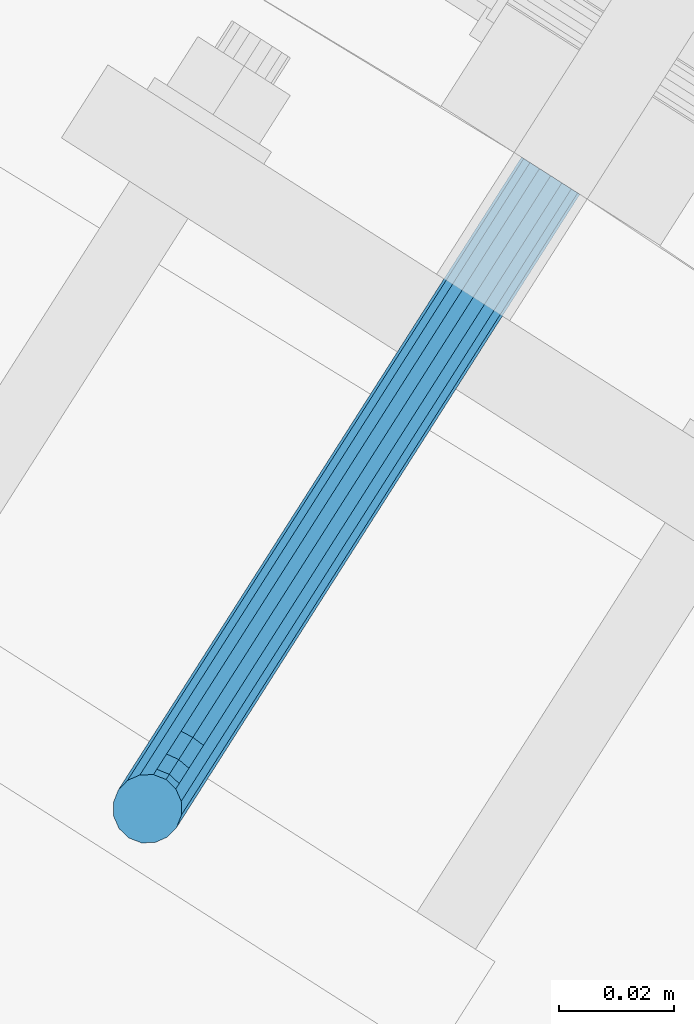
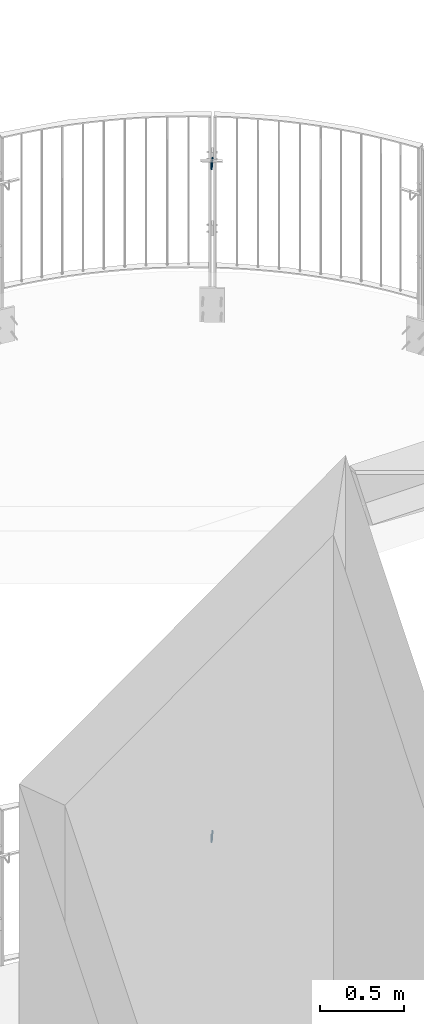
# One storey, part 146 of 296: 2 beams.
"""IFC2X3 building model written with IfcOpenShell, lengths in millimetres."""

from ifc_helpers import new_model, entity, si_unit, converted_unit, origin_with_axes, place, context, project, spatial, faceted_brep, material, element, save


model = new_model("IFC2X3")

# Units and contexts
model_context = context("Model", 3, precision=1e-09, world=origin_with_axes())
ifc_project = project(units=[si_unit("LENGTHUNIT", "METRE", prefix="MILLI"), si_unit("AREAUNIT", "SQUARE_METRE"), si_unit("VOLUMEUNIT", "CUBIC_METRE"), converted_unit("PLANEANGLEUNIT", "DEGREE", entity("IfcPlaneAngleMeasure", 0.01745329), si_unit("PLANEANGLEUNIT", "RADIAN"), dimensions=[0, 0, 0, 0, 0, 0, 0])], contexts=[model_context])

# Site, building, storey
site_placement = place(None, origin_with_axes())
site = spatial("IfcSite", under=ifc_project, at=site_placement, Name="TZD-S?d | Treppenhausgel?nder", CompositionType="ELEMENT")
building_placement = place(site_placement, origin_with_axes())
building = spatial("IfcBuilding", under=site, at=building_placement, Name="Struktur 1", CompositionType="ELEMENT")
storey_placement = place(building_placement, origin_with_axes())
storey = spatial("IfcBuildingStorey", under=building, at=storey_placement, Name="Default Storey", CompositionType="ELEMENT", Elevation=0.0)

# Beams
ifc_material = material(Name="S235JR")
beam_1_placement = place(None, origin_with_axes())
element("IfcBeam", 1, at=beam_1_placement, inside=storey, material=ifc_material, Name="-", ObjectType="-", context=model_context, shape_type="Brep", body=[
    faceted_brep([(4447.202500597, 2285.105902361, 8210.0), (4449.543027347, 2285.156972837, 8210.0), (4451.685848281, 2286.099836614, 8210.0), (4453.304738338, 2287.790951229, 8210.0), (4454.153236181, 2289.972859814, 8210.0), (4454.102165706, 2292.313386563, 8210.0), (4453.159301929, 2294.456207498, 8210.0), (4451.468187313, 2296.075097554, 8210.0), (4449.286278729, 2296.923595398, 8210.0), (4446.94575198, 2296.872524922, 8210.0), (4444.802931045, 2295.929661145, 8210.0), (4443.184040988, 2294.23854653, 8210.0), (4442.335543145, 2292.056637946, 8210.0), (4442.38661362, 2289.716111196, 8210.0), (4443.329477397, 2287.573290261, 8210.0), (4445.020592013, 2285.954400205, 8210.0), (4521.671545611, 2398.376067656, 8140.757359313), (4520.029850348, 2399.421942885, 8139.456722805), (4518.093338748, 2400.655636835, 8139.0), (4516.156827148, 2401.889330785, 8139.456722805), (4514.515131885, 2402.935206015, 8140.757359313), (4513.41818618, 2403.634037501, 8142.703899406), (4513.032990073, 2403.879434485, 8145.0), (4513.41818618, 2403.634037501, 8147.296100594), (4514.515131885, 2402.935206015, 8149.242640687), (4516.156827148, 2401.889330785, 8150.543277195), (4518.093338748, 2400.655636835, 8151.0), (4520.029850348, 2399.421942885, 8150.543277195), (4521.671545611, 2398.376067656, 8149.242640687), (4522.768491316, 2397.677236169, 8147.296100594), (4523.153687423, 2397.431839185, 8145.0), (4522.768491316, 2397.677236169, 8142.703899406), (4447.202500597, 2285.105902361, 8165.0), (4449.543027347, 2285.156972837, 8165.0), (4451.685848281, 2286.099836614, 8165.0), (4453.304738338, 2287.790951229, 8165.0), (4454.153236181, 2289.972859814, 8165.0), (4454.102165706, 2292.313386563, 8165.0), (4453.159301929, 2294.456207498, 8165.0), (4451.468187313, 2296.075097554, 8165.0), (4449.286278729, 2296.923595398, 8165.0), (4446.94575198, 2296.872524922, 8165.0), (4444.802931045, 2295.929661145, 8165.0), (4443.184040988, 2294.23854653, 8165.0), (4442.335543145, 2292.056637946, 8165.0), (4442.38661362, 2289.716111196, 8165.0), (4443.329477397, 2287.573290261, 8165.0), (4445.020592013, 2285.954400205, 8165.0), (4448.247207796, 2286.745764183, 8155.225011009), (4450.534539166, 2286.713334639, 8155.722743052), (4452.597747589, 2287.531231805, 8156.467651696), (4454.122728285, 2289.074938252, 8157.346331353), (4454.877316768, 2291.109438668, 8158.225011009), (4454.746633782, 2293.324998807, 8158.969919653), (4453.750574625, 2295.384319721, 8159.467651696), (4452.040780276, 2296.97388847, 8159.642431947), (4449.877551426, 2297.851707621, 8159.467651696), (4447.590220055, 2297.884137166, 8158.969919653), (4445.527011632, 2297.06624, 8158.225011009), (4444.002030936, 2295.522533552, 8157.346331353), (4443.247442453, 2293.488033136, 8156.467651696), (4443.378125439, 2291.272472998, 8155.722743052), (4444.374184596, 2289.213152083, 8155.225011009), (4446.083978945, 2287.623583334, 8155.050230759), (4451.22228219, 2291.415695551, 8146.938175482), (4453.358125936, 2291.145478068, 8147.857864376), (4455.194617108, 2291.607500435, 8149.234276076), (4456.452166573, 2292.731423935, 8150.857864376), (4456.939323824, 2294.346141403, 8152.481452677), (4456.581923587, 2296.205826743, 8153.857864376), (4455.434376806, 2298.027359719, 8154.777553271), (4453.671387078, 2299.533428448, 8155.100505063), (4451.561353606, 2300.494747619, 8154.777553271), (4449.42550986, 2300.764965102, 8153.857864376), (4447.589018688, 2300.302942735, 8152.481452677), (4446.331469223, 2299.179019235, 8150.857864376), (4445.844311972, 2297.564301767, 8149.234276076), (4446.20171221, 2295.704616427, 8147.857864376), (4447.349258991, 2293.883083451, 8146.938175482), (4449.112248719, 2292.377014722, 8146.615223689), (4455.674795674, 2298.404741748, 8141.401089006), (4457.583922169, 2297.778649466, 8142.602720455), (4459.081106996, 2297.708067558, 8144.401089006), (4459.938417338, 2298.203741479, 8146.52240935), (4460.025335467, 2299.19020937, 8148.643729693), (4459.328628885, 2300.517290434, 8150.442098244), (4457.954364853, 2301.982948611, 8151.643729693), (4456.111762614, 2303.364050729, 8152.065686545), (4454.081341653, 2304.450336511, 8151.643729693), (4452.172215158, 2305.076428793, 8150.442098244), (4450.675030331, 2305.147010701, 8148.643729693), (4449.817719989, 2304.65133678, 8146.52240935), (4449.73080186, 2303.66486889, 8144.401089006), (4450.427508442, 2302.337787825, 8142.602720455), (4451.801772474, 2300.872129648, 8141.401089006), (4453.644374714, 2299.49102753, 8140.979132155), (4460.92689343, 2306.648883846, 8139.456722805), (4462.568588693, 2305.603008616, 8140.757359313), (4463.665534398, 2304.90417713, 8142.703899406), (4464.050730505, 2304.658780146, 8145.0), (4463.665534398, 2304.90417713, 8147.296100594), (4462.568588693, 2305.603008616, 8149.242640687), (4460.92689343, 2306.648883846, 8150.543277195), (4458.99038183, 2307.882577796, 8151.0), (4457.05387023, 2309.116271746, 8150.543277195), (4455.412174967, 2310.162146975, 8149.242640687), (4454.315229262, 2310.860978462, 8147.296100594), (4453.930033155, 2311.106375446, 8145.0), (4454.315229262, 2310.860978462, 8142.703899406), (4455.412174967, 2310.162146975, 8140.757359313), (4457.05387023, 2309.116271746, 8139.456722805), (4458.99038183, 2307.882577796, 8139.0)], [[[0, 1, 2, 3, 4, 5, 6, 7, 8, 9, 10, 11, 12, 13, 14, 15]], [[16, 17, 18, 19, 20, 21, 22, 23, 24, 25, 26, 27, 28, 29, 30, 31]], [[1, 0, 32, 33]], [[2, 1, 33, 34]], [[3, 2, 34, 35]], [[4, 3, 35, 36]], [[5, 4, 36, 37]], [[6, 5, 37, 38]], [[7, 6, 38, 39]], [[8, 7, 39, 40]], [[9, 8, 40, 41]], [[10, 9, 41, 42]], [[11, 10, 42, 43]], [[12, 11, 43, 44]], [[13, 12, 44, 45]], [[14, 13, 45, 46]], [[15, 14, 46, 47]], [[0, 15, 47, 32]], [[33, 32, 48, 49]], [[34, 33, 49, 50]], [[35, 34, 50, 51]], [[36, 35, 51, 52]], [[37, 36, 52, 53]], [[38, 37, 53, 54]], [[39, 38, 54, 55]], [[40, 39, 55, 56]], [[41, 40, 56, 57]], [[42, 41, 57, 58]], [[43, 42, 58, 59]], [[44, 43, 59, 60]], [[45, 44, 60, 61]], [[46, 45, 61, 62]], [[47, 46, 62, 63]], [[32, 47, 63, 48]], [[49, 48, 64, 65]], [[50, 49, 65, 66]], [[51, 50, 66, 67]], [[52, 51, 67, 68]], [[53, 52, 68, 69]], [[54, 53, 69, 70]], [[55, 54, 70, 71]], [[56, 55, 71, 72]], [[57, 56, 72, 73]], [[58, 57, 73, 74]], [[59, 58, 74, 75]], [[60, 59, 75, 76]], [[61, 60, 76, 77]], [[62, 61, 77, 78]], [[63, 62, 78, 79]], [[48, 63, 79, 64]], [[65, 64, 80, 81]], [[66, 65, 81, 82]], [[67, 66, 82, 83]], [[68, 67, 83, 84]], [[69, 68, 84, 85]], [[70, 69, 85, 86]], [[71, 70, 86, 87]], [[72, 71, 87, 88]], [[73, 72, 88, 89]], [[74, 73, 89, 90]], [[75, 74, 90, 91]], [[76, 75, 91, 92]], [[77, 76, 92, 93]], [[78, 77, 93, 94]], [[79, 78, 94, 95]], [[64, 79, 95, 80]], [[81, 80, 96, 97]], [[82, 81, 97, 98]], [[83, 82, 98, 99]], [[84, 83, 99, 100]], [[85, 84, 100, 101]], [[86, 85, 101, 102]], [[87, 86, 102, 103]], [[88, 87, 103, 104]], [[89, 88, 104, 105]], [[90, 89, 105, 106]], [[91, 90, 106, 107]], [[92, 91, 107, 108]], [[93, 92, 108, 109]], [[94, 93, 109, 110]], [[95, 94, 110, 111]], [[80, 95, 111, 96]], [[97, 96, 17, 16]], [[98, 97, 16, 31]], [[99, 98, 31, 30]], [[100, 99, 30, 29]], [[101, 100, 29, 28]], [[102, 101, 28, 27]], [[103, 102, 27, 26]], [[104, 103, 26, 25]], [[105, 104, 25, 24]], [[106, 105, 24, 23]], [[107, 106, 23, 22]], [[108, 107, 22, 21]], [[109, 108, 21, 20]], [[110, 109, 20, 19]], [[111, 110, 19, 18]], [[96, 111, 18, 17]]]),
])
beam_2_placement = place(None, origin_with_axes())
element("IfcBeam", 2, at=beam_2_placement, inside=storey, material=ifc_material, Name="-", ObjectType="-", context=model_context, shape_type="Brep", body=[
    faceted_brep([(4447.202500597, 2285.105902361, 3310.0), (4449.543027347, 2285.156972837, 3310.0), (4451.685848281, 2286.099836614, 3310.0), (4453.304738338, 2287.790951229, 3310.0), (4454.153236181, 2289.972859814, 3310.0), (4454.102165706, 2292.313386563, 3310.0), (4453.159301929, 2294.456207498, 3310.0), (4451.468187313, 2296.075097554, 3310.0), (4449.286278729, 2296.923595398, 3310.0), (4446.94575198, 2296.872524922, 3310.0), (4444.802931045, 2295.929661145, 3310.0), (4443.184040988, 2294.23854653, 3310.0), (4442.335543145, 2292.056637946, 3310.0), (4442.38661362, 2289.716111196, 3310.0), (4443.329477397, 2287.573290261, 3310.0), (4445.020592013, 2285.954400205, 3310.0), (4521.671545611, 2398.376067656, 3240.757359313), (4520.029850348, 2399.421942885, 3239.456722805), (4518.093338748, 2400.655636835, 3239.0), (4516.156827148, 2401.889330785, 3239.456722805), (4514.515131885, 2402.935206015, 3240.757359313), (4513.41818618, 2403.634037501, 3242.703899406), (4513.032990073, 2403.879434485, 3245.0), (4513.41818618, 2403.634037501, 3247.296100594), (4514.515131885, 2402.935206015, 3249.242640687), (4516.156827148, 2401.889330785, 3250.543277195), (4518.093338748, 2400.655636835, 3251.0), (4520.029850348, 2399.421942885, 3250.543277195), (4521.671545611, 2398.376067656, 3249.242640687), (4522.768491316, 2397.677236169, 3247.296100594), (4523.153687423, 2397.431839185, 3245.0), (4522.768491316, 2397.677236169, 3242.703899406), (4447.202500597, 2285.105902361, 3265.0), (4449.543027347, 2285.156972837, 3265.0), (4451.685848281, 2286.099836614, 3265.0), (4453.304738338, 2287.790951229, 3265.0), (4454.153236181, 2289.972859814, 3265.0), (4454.102165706, 2292.313386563, 3265.0), (4453.159301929, 2294.456207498, 3265.0), (4451.468187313, 2296.075097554, 3265.0), (4449.286278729, 2296.923595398, 3265.0), (4446.94575198, 2296.872524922, 3265.0), (4444.802931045, 2295.929661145, 3265.0), (4443.184040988, 2294.23854653, 3265.0), (4442.335543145, 2292.056637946, 3265.0), (4442.38661362, 2289.716111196, 3265.0), (4443.329477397, 2287.573290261, 3265.0), (4445.020592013, 2285.954400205, 3265.0), (4448.247207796, 2286.745764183, 3255.225011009), (4450.534539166, 2286.713334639, 3255.722743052), (4452.597747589, 2287.531231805, 3256.467651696), (4454.122728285, 2289.074938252, 3257.346331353), (4454.877316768, 2291.109438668, 3258.225011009), (4454.746633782, 2293.324998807, 3258.969919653), (4453.750574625, 2295.384319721, 3259.467651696), (4452.040780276, 2296.97388847, 3259.642431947), (4449.877551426, 2297.851707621, 3259.467651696), (4447.590220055, 2297.884137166, 3258.969919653), (4445.527011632, 2297.06624, 3258.225011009), (4444.002030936, 2295.522533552, 3257.346331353), (4443.247442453, 2293.488033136, 3256.467651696), (4443.378125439, 2291.272472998, 3255.722743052), (4444.374184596, 2289.213152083, 3255.225011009), (4446.083978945, 2287.623583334, 3255.050230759), (4451.22228219, 2291.415695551, 3246.938175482), (4453.358125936, 2291.145478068, 3247.857864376), (4455.194617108, 2291.607500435, 3249.234276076), (4456.452166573, 2292.731423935, 3250.857864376), (4456.939323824, 2294.346141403, 3252.481452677), (4456.581923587, 2296.205826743, 3253.857864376), (4455.434376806, 2298.027359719, 3254.777553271), (4453.671387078, 2299.533428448, 3255.100505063), (4451.561353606, 2300.494747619, 3254.777553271), (4449.42550986, 2300.764965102, 3253.857864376), (4447.589018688, 2300.302942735, 3252.481452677), (4446.331469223, 2299.179019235, 3250.857864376), (4445.844311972, 2297.564301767, 3249.234276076), (4446.20171221, 2295.704616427, 3247.857864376), (4447.349258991, 2293.883083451, 3246.938175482), (4449.112248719, 2292.377014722, 3246.615223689), (4455.674795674, 2298.404741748, 3241.401089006), (4457.583922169, 2297.778649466, 3242.602720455), (4459.081106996, 2297.708067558, 3244.401089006), (4459.938417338, 2298.203741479, 3246.52240935), (4460.025335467, 2299.19020937, 3248.643729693), (4459.328628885, 2300.517290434, 3250.442098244), (4457.954364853, 2301.982948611, 3251.643729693), (4456.111762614, 2303.364050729, 3252.065686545), (4454.081341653, 2304.450336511, 3251.643729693), (4452.172215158, 2305.076428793, 3250.442098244), (4450.675030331, 2305.147010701, 3248.643729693), (4449.817719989, 2304.65133678, 3246.52240935), (4449.73080186, 2303.66486889, 3244.401089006), (4450.427508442, 2302.337787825, 3242.602720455), (4451.801772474, 2300.872129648, 3241.401089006), (4453.644374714, 2299.49102753, 3240.979132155), (4460.92689343, 2306.648883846, 3239.456722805), (4462.568588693, 2305.603008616, 3240.757359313), (4463.665534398, 2304.90417713, 3242.703899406), (4464.050730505, 2304.658780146, 3245.0), (4463.665534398, 2304.90417713, 3247.296100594), (4462.568588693, 2305.603008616, 3249.242640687), (4460.92689343, 2306.648883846, 3250.543277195), (4458.99038183, 2307.882577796, 3251.0), (4457.05387023, 2309.116271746, 3250.543277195), (4455.412174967, 2310.162146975, 3249.242640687), (4454.315229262, 2310.860978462, 3247.296100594), (4453.930033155, 2311.106375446, 3245.0), (4454.315229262, 2310.860978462, 3242.703899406), (4455.412174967, 2310.162146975, 3240.757359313), (4457.05387023, 2309.116271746, 3239.456722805), (4458.99038183, 2307.882577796, 3239.0)], [[[0, 1, 2, 3, 4, 5, 6, 7, 8, 9, 10, 11, 12, 13, 14, 15]], [[16, 17, 18, 19, 20, 21, 22, 23, 24, 25, 26, 27, 28, 29, 30, 31]], [[1, 0, 32, 33]], [[2, 1, 33, 34]], [[3, 2, 34, 35]], [[4, 3, 35, 36]], [[5, 4, 36, 37]], [[6, 5, 37, 38]], [[7, 6, 38, 39]], [[8, 7, 39, 40]], [[9, 8, 40, 41]], [[10, 9, 41, 42]], [[11, 10, 42, 43]], [[12, 11, 43, 44]], [[13, 12, 44, 45]], [[14, 13, 45, 46]], [[15, 14, 46, 47]], [[0, 15, 47, 32]], [[33, 32, 48, 49]], [[34, 33, 49, 50]], [[35, 34, 50, 51]], [[36, 35, 51, 52]], [[37, 36, 52, 53]], [[38, 37, 53, 54]], [[39, 38, 54, 55]], [[40, 39, 55, 56]], [[41, 40, 56, 57]], [[42, 41, 57, 58]], [[43, 42, 58, 59]], [[44, 43, 59, 60]], [[45, 44, 60, 61]], [[46, 45, 61, 62]], [[47, 46, 62, 63]], [[32, 47, 63, 48]], [[49, 48, 64, 65]], [[50, 49, 65, 66]], [[51, 50, 66, 67]], [[52, 51, 67, 68]], [[53, 52, 68, 69]], [[54, 53, 69, 70]], [[55, 54, 70, 71]], [[56, 55, 71, 72]], [[57, 56, 72, 73]], [[58, 57, 73, 74]], [[59, 58, 74, 75]], [[60, 59, 75, 76]], [[61, 60, 76, 77]], [[62, 61, 77, 78]], [[63, 62, 78, 79]], [[48, 63, 79, 64]], [[65, 64, 80, 81]], [[66, 65, 81, 82]], [[67, 66, 82, 83]], [[68, 67, 83, 84]], [[69, 68, 84, 85]], [[70, 69, 85, 86]], [[71, 70, 86, 87]], [[72, 71, 87, 88]], [[73, 72, 88, 89]], [[74, 73, 89, 90]], [[75, 74, 90, 91]], [[76, 75, 91, 92]], [[77, 76, 92, 93]], [[78, 77, 93, 94]], [[79, 78, 94, 95]], [[64, 79, 95, 80]], [[81, 80, 96, 97]], [[82, 81, 97, 98]], [[83, 82, 98, 99]], [[84, 83, 99, 100]], [[85, 84, 100, 101]], [[86, 85, 101, 102]], [[87, 86, 102, 103]], [[88, 87, 103, 104]], [[89, 88, 104, 105]], [[90, 89, 105, 106]], [[91, 90, 106, 107]], [[92, 91, 107, 108]], [[93, 92, 108, 109]], [[94, 93, 109, 110]], [[95, 94, 110, 111]], [[80, 95, 111, 96]], [[97, 96, 17, 16]], [[98, 97, 16, 31]], [[99, 98, 31, 30]], [[100, 99, 30, 29]], [[101, 100, 29, 28]], [[102, 101, 28, 27]], [[103, 102, 27, 26]], [[104, 103, 26, 25]], [[105, 104, 25, 24]], [[106, 105, 24, 23]], [[107, 106, 23, 22]], [[108, 107, 22, 21]], [[109, 108, 21, 20]], [[110, 109, 20, 19]], [[111, 110, 19, 18]], [[96, 111, 18, 17]]]),
])

save(model, "model.ifc")
